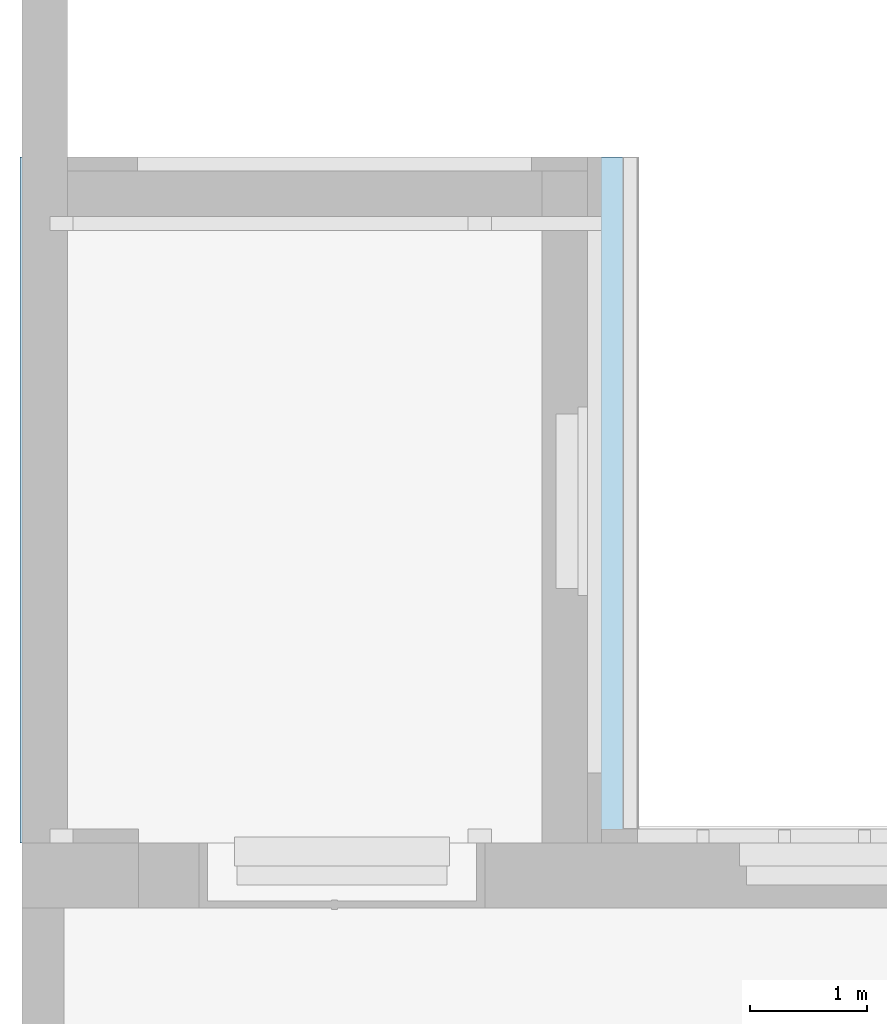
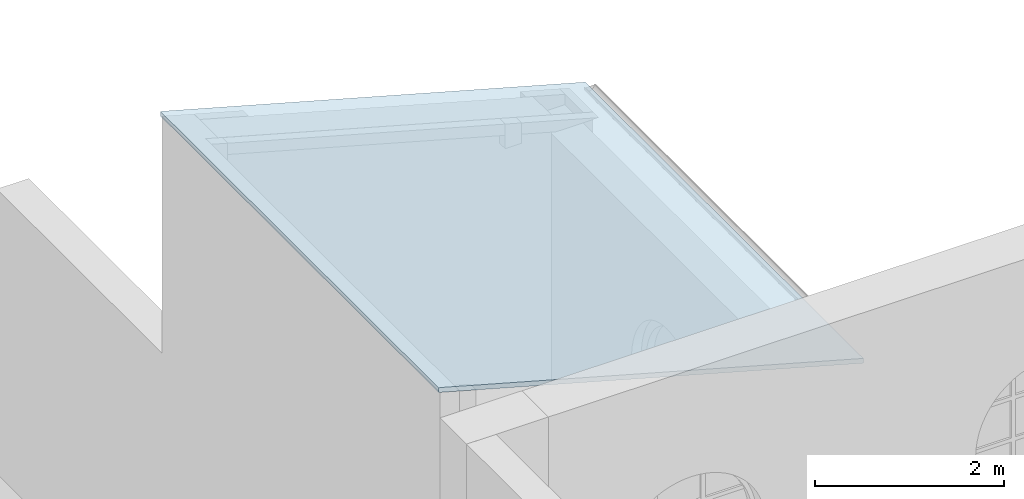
"""IFC4 building model written with IfcOpenShell, lengths in metres."""

from ifc_helpers import new_model, entity, si_unit, converted_unit, derived_unit, frame, origin, place, context, subcontext, project, spatial, faceted_brep, element, save


model = new_model("IFC4")

# Units and contexts
model_context = context("Model", 3, precision=1e-05, world=origin())
body_context = subcontext(model_context, "Body", "Model", "MODEL_VIEW")
ifc_project = project(units=[si_unit("LENGTHUNIT", "METRE"), si_unit("AREAUNIT", "SQUARE_METRE"), si_unit("VOLUMEUNIT", "CUBIC_METRE"), si_unit("MASSUNIT", "GRAM", prefix="KILO"), converted_unit("PLANEANGLEUNIT", "DEGREE", entity("IfcPlaneAngleMeasure", 0.0174532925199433), si_unit("PLANEANGLEUNIT", "RADIAN"), dimensions=[0, 0, 0, 0, 0, 0, 0]), derived_unit("THERMALTRANSMITTANCEUNIT", [(si_unit("POWERUNIT", "WATT"), 1), (si_unit("THERMODYNAMICTEMPERATUREUNIT", "KELVIN"), -1), (si_unit("LENGTHUNIT", "METRE"), -2)]), derived_unit("VOLUMETRICFLOWRATEUNIT", [(si_unit("LENGTHUNIT", "METRE"), 3), (converted_unit("TIMEUNIT", "hour", entity("IfcTimeMeasure", 3600.0), si_unit("TIMEUNIT", "SECOND"), dimensions=[0, 0, 1, 0, 0, 0, 0]), -1), (si_unit("LENGTHUNIT", "METRE"), -1)])], contexts=[model_context])

# Building, storeys
building_placement = place(None, origin())
building = spatial("IfcBuilding", under=ifc_project, at=building_placement, Name="Bestandsgebäude A - Sporthalle / Wohnhaus (TB 100-499)   ANPASSEN !!!", CompositionType="ELEMENT")
storey_1_placement = place(building_placement, origin())
storey_1 = spatial("IfcBuildingStorey", under=building, at=storey_1_placement, Name="Geb. A Erdgeschoss (TB 200-249)", CompositionType="ELEMENT", Elevation=0.0)
storey_2_placement = place(storey_1_placement, origin())
storey_2 = spatial("IfcBuildingStorey", under=storey_1, at=storey_2_placement, Name="Architektur (TB 200-209)", CompositionType="PARTIAL")

# Roof
roof_placement = place(storey_2_placement, frame((-31.3860343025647, 13.0, 5.29957311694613)))
element("IfcRoof", 1, at=roof_placement, inside=storey_2, PredefinedType="NOTDEFINED", context=body_context, shape_type="Brep", body=[
    faceted_brep([(0.0, 5.88, 1.43309499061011), (0.0, 0.0, 1.43309499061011), (5.16757359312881, 0.0, 0.0), (5.16757359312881, 5.88, 0.0), (0.0160343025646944, 5.88, 1.49091281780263), (5.1836078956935, 5.88, 0.0578178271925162), (5.1836078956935, 0.0, 0.0578178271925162), (0.0160343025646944, 0.0, 1.49091281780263), (5.1836078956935, 0.0, 0.0), (0.0, 0.0, 1.49091281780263), (0.0, 5.88, 1.49091281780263), (5.1836078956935, 5.88, 0.0)], [[[0, 1, 2, 3]], [[4, 5, 6, 7]], [[7, 6, 8, 2, 1, 9]], [[5, 4, 10, 0, 3, 11]], [[10, 9, 1, 0]], [[4, 7, 9, 10]], [[8, 11, 3, 2]], [[6, 5, 11, 8]]], orient=[[False], [False], [False], [False], [False], [False], [False], [False]]),
])

save(model, "model.ifc")
